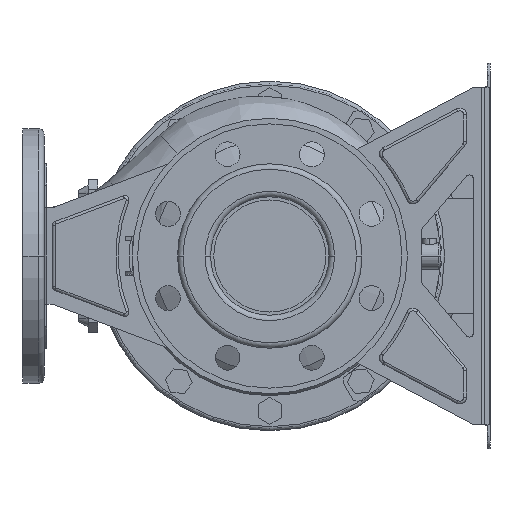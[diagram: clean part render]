
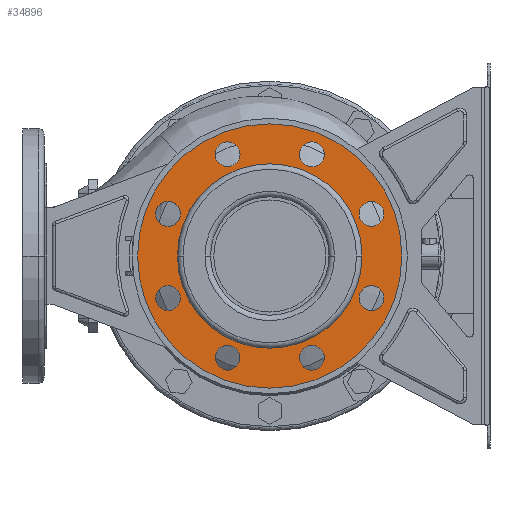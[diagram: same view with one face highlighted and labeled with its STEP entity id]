
A CAD part, front view. The second image highlights one B-rep face of the part: STEP entity #34896.
In plain terms, the highlighted planar face has unit normal (0, -1, 0) as drawn and (-1, 0, 0) by its records, which use the part's own axes.
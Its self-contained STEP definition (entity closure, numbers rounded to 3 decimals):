
#34029=CARTESIAN_POINT('',(14.,0.,0.));
#34030=DIRECTION('',(-1.,0.,0.));
#34031=DIRECTION('',(0.,1.,0.));
#34032=AXIS2_PLACEMENT_3D('',#34029,#34030,#34031);
#34037=CARTESIAN_POINT('',(14.,0.,0.));
#34038=DIRECTION('',(1.,0.,0.));
#34039=DIRECTION('',(0.,1.,0.));
#34040=AXIS2_PLACEMENT_3D('',#34037,#34038,#34039);
#34045=CARTESIAN_POINT('',(14.,-73.91,30.615));
#34046=DIRECTION('',(1.,0.,0.));
#34047=DIRECTION('',(0.,1.,0.));
#34048=AXIS2_PLACEMENT_3D('',#34045,#34046,#34047);
#34053=CARTESIAN_POINT('',(14.,-73.91,30.615));
#34054=DIRECTION('',(1.,0.,0.));
#34055=DIRECTION('',(0.,-1.,0.));
#34056=AXIS2_PLACEMENT_3D('',#34053,#34054,#34055);
#34061=CARTESIAN_POINT('',(14.,-73.91,-30.615));
#34062=DIRECTION('',(1.,0.,0.));
#34063=DIRECTION('',(0.,0.707,0.707));
#34064=AXIS2_PLACEMENT_3D('',#34061,#34062,#34063);
#34069=CARTESIAN_POINT('',(14.,-73.91,-30.615));
#34070=DIRECTION('',(1.,0.,0.));
#34071=DIRECTION('',(0.,-0.707,-0.707));
#34072=AXIS2_PLACEMENT_3D('',#34069,#34070,#34071);
#34077=CARTESIAN_POINT('',(14.,-30.615,-73.91));
#34078=DIRECTION('',(1.,0.,0.));
#34079=DIRECTION('',(0.,0.,1.));
#34080=AXIS2_PLACEMENT_3D('',#34077,#34078,#34079);
#34085=CARTESIAN_POINT('',(14.,-30.615,-73.91));
#34086=DIRECTION('',(1.,0.,0.));
#34087=DIRECTION('',(0.,0.,-1.));
#34088=AXIS2_PLACEMENT_3D('',#34085,#34086,#34087);
#34093=CARTESIAN_POINT('',(14.,30.615,-73.91));
#34094=DIRECTION('',(1.,0.,0.));
#34095=DIRECTION('',(0.,-0.707,0.707));
#34096=AXIS2_PLACEMENT_3D('',#34093,#34094,#34095);
#34101=CARTESIAN_POINT('',(14.,30.615,-73.91));
#34102=DIRECTION('',(1.,0.,0.));
#34103=DIRECTION('',(0.,0.707,-0.707));
#34104=AXIS2_PLACEMENT_3D('',#34101,#34102,#34103);
#34109=CARTESIAN_POINT('',(14.,73.91,-30.615));
#34110=DIRECTION('',(1.,0.,0.));
#34111=DIRECTION('',(0.,-1.,0.));
#34112=AXIS2_PLACEMENT_3D('',#34109,#34110,#34111);
#34117=CARTESIAN_POINT('',(14.,73.91,-30.615));
#34118=DIRECTION('',(1.,0.,0.));
#34119=DIRECTION('',(0.,1.,0.));
#34120=AXIS2_PLACEMENT_3D('',#34117,#34118,#34119);
#34125=CARTESIAN_POINT('',(14.,73.91,30.615));
#34126=DIRECTION('',(1.,0.,0.));
#34127=DIRECTION('',(0.,-0.707,-0.707));
#34128=AXIS2_PLACEMENT_3D('',#34125,#34126,#34127);
#34133=CARTESIAN_POINT('',(14.,73.91,30.615));
#34134=DIRECTION('',(1.,0.,0.));
#34135=DIRECTION('',(0.,0.707,0.707));
#34136=AXIS2_PLACEMENT_3D('',#34133,#34134,#34135);
#34141=CARTESIAN_POINT('',(14.,30.615,73.91));
#34142=DIRECTION('',(1.,0.,0.));
#34143=DIRECTION('',(0.,0.,-1.));
#34144=AXIS2_PLACEMENT_3D('',#34141,#34142,#34143);
#34149=CARTESIAN_POINT('',(14.,30.615,73.91));
#34150=DIRECTION('',(1.,0.,0.));
#34151=DIRECTION('',(0.,0.,1.));
#34152=AXIS2_PLACEMENT_3D('',#34149,#34150,#34151);
#34157=CARTESIAN_POINT('',(14.,-30.615,73.91));
#34158=DIRECTION('',(1.,0.,0.));
#34159=DIRECTION('',(0.,0.707,-0.707));
#34160=AXIS2_PLACEMENT_3D('',#34157,#34158,#34159);
#34165=CARTESIAN_POINT('',(14.,-30.615,73.91));
#34166=DIRECTION('',(1.,0.,0.));
#34167=DIRECTION('',(0.,-0.707,0.707));
#34168=AXIS2_PLACEMENT_3D('',#34165,#34166,#34167);
#34173=CARTESIAN_POINT('',(14.,0.,0.));
#34174=DIRECTION('',(1.,0.,0.));
#34175=DIRECTION('',(0.,1.,0.));
#34176=AXIS2_PLACEMENT_3D('',#34173,#34174,#34175);
#34195=CARTESIAN_POINT('',(14.,0.,0.));
#34196=DIRECTION('',(-1.,0.,0.));
#34197=DIRECTION('',(0.,1.,0.));
#34198=AXIS2_PLACEMENT_3D('',#34195,#34196,#34197);
#34416=CARTESIAN_POINT('',(14.,96.,0.));
#34418=VERTEX_POINT('',#34416);
#34419=CARTESIAN_POINT('',(14.,67.,0.));
#34421=VERTEX_POINT('',#34419);
#34448=CARTESIAN_POINT('',(14.,-96.,0.));
#34450=VERTEX_POINT('',#34448);
#34451=CARTESIAN_POINT('',(14.,-67.,0.));
#34453=VERTEX_POINT('',#34451);
#34463=CARTESIAN_POINT('',(14.,-64.91,30.615));
#34464=CARTESIAN_POINT('',(14.,-82.91,30.615));
#34465=VERTEX_POINT('',#34463);
#34466=VERTEX_POINT('',#34464);
#34471=CARTESIAN_POINT('',(14.,-67.546,-24.251));
#34472=CARTESIAN_POINT('',(14.,-80.274,-36.979));
#34473=VERTEX_POINT('',#34471);
#34474=VERTEX_POINT('',#34472);
#34479=CARTESIAN_POINT('',(14.,-30.615,-64.91));
#34480=CARTESIAN_POINT('',(14.,-30.615,-82.91));
#34481=VERTEX_POINT('',#34479);
#34482=VERTEX_POINT('',#34480);
#34487=CARTESIAN_POINT('',(14.,24.251,-67.546));
#34488=CARTESIAN_POINT('',(14.,36.979,-80.274));
#34489=VERTEX_POINT('',#34487);
#34490=VERTEX_POINT('',#34488);
#34495=CARTESIAN_POINT('',(14.,64.91,-30.615));
#34496=CARTESIAN_POINT('',(14.,82.91,-30.615));
#34497=VERTEX_POINT('',#34495);
#34498=VERTEX_POINT('',#34496);
#34503=CARTESIAN_POINT('',(14.,67.546,24.251));
#34504=CARTESIAN_POINT('',(14.,80.274,36.979));
#34505=VERTEX_POINT('',#34503);
#34506=VERTEX_POINT('',#34504);
#34511=CARTESIAN_POINT('',(14.,30.615,64.91));
#34512=CARTESIAN_POINT('',(14.,30.615,82.91));
#34513=VERTEX_POINT('',#34511);
#34514=VERTEX_POINT('',#34512);
#34519=CARTESIAN_POINT('',(14.,-24.251,67.546));
#34520=CARTESIAN_POINT('',(14.,-36.979,80.274));
#34521=VERTEX_POINT('',#34519);
#34522=VERTEX_POINT('',#34520);
#34833=CARTESIAN_POINT('',(14.,0.,0.));
#34834=DIRECTION('',(1.,0.,0.));
#34835=DIRECTION('',(0.,-1.,0.));
#34836=AXIS2_PLACEMENT_3D('',#34833,#34834,#34835);
#34837=PLANE('',#34836);
#34838=ORIENTED_EDGE('',*,*,#34826,.F.);
#34839=ORIENTED_EDGE('',*,*,#34815,.T.);
#34840=EDGE_LOOP('',(#34838,#34839));
#34841=FACE_OUTER_BOUND('',#34840,.F.);
#34843=ORIENTED_EDGE('',*,*,#34842,.F.);
#34845=ORIENTED_EDGE('',*,*,#34844,.T.);
#34846=EDGE_LOOP('',(#34843,#34845));
#34847=FACE_BOUND('',#34846,.F.);
#34849=ORIENTED_EDGE('',*,*,#34848,.F.);
#34851=ORIENTED_EDGE('',*,*,#34850,.F.);
#34852=EDGE_LOOP('',(#34849,#34851));
#34853=FACE_BOUND('',#34852,.F.);
#34855=ORIENTED_EDGE('',*,*,#34854,.F.);
#34857=ORIENTED_EDGE('',*,*,#34856,.F.);
#34858=EDGE_LOOP('',(#34855,#34857));
#34859=FACE_BOUND('',#34858,.F.);
#34861=ORIENTED_EDGE('',*,*,#34860,.F.);
#34863=ORIENTED_EDGE('',*,*,#34862,.F.);
#34864=EDGE_LOOP('',(#34861,#34863));
#34865=FACE_BOUND('',#34864,.F.);
#34867=ORIENTED_EDGE('',*,*,#34866,.F.);
#34869=ORIENTED_EDGE('',*,*,#34868,.F.);
#34870=EDGE_LOOP('',(#34867,#34869));
#34871=FACE_BOUND('',#34870,.F.);
#34873=ORIENTED_EDGE('',*,*,#34872,.F.);
#34875=ORIENTED_EDGE('',*,*,#34874,.F.);
#34876=EDGE_LOOP('',(#34873,#34875));
#34877=FACE_BOUND('',#34876,.F.);
#34879=ORIENTED_EDGE('',*,*,#34878,.F.);
#34881=ORIENTED_EDGE('',*,*,#34880,.F.);
#34882=EDGE_LOOP('',(#34879,#34881));
#34883=FACE_BOUND('',#34882,.F.);
#34885=ORIENTED_EDGE('',*,*,#34884,.F.);
#34887=ORIENTED_EDGE('',*,*,#34886,.F.);
#34888=EDGE_LOOP('',(#34885,#34887));
#34889=FACE_BOUND('',#34888,.F.);
#34891=ORIENTED_EDGE('',*,*,#34890,.F.);
#34893=ORIENTED_EDGE('',*,*,#34892,.F.);
#34894=EDGE_LOOP('',(#34891,#34893));
#34895=FACE_BOUND('',#34894,.F.);
#34033=CIRCLE('',#34032,96.);
#34041=CIRCLE('',#34040,96.);
#34049=CIRCLE('',#34048,9.);
#34057=CIRCLE('',#34056,9.);
#34065=CIRCLE('',#34064,9.);
#34073=CIRCLE('',#34072,9.);
#34081=CIRCLE('',#34080,9.);
#34089=CIRCLE('',#34088,9.);
#34097=CIRCLE('',#34096,9.);
#34105=CIRCLE('',#34104,9.);
#34113=CIRCLE('',#34112,9.);
#34121=CIRCLE('',#34120,9.);
#34129=CIRCLE('',#34128,9.);
#34137=CIRCLE('',#34136,9.);
#34145=CIRCLE('',#34144,9.);
#34153=CIRCLE('',#34152,9.);
#34161=CIRCLE('',#34160,9.);
#34169=CIRCLE('',#34168,9.);
#34177=CIRCLE('',#34176,67.);
#34199=CIRCLE('',#34198,67.);
#34815=EDGE_CURVE('',#34418,#34450,#34041,.T.);
#34826=EDGE_CURVE('',#34418,#34450,#34033,.T.);
#34842=EDGE_CURVE('',#34421,#34453,#34177,.T.);
#34844=EDGE_CURVE('',#34421,#34453,#34199,.T.);
#34848=EDGE_CURVE('',#34465,#34466,#34049,.T.);
#34850=EDGE_CURVE('',#34466,#34465,#34057,.T.);
#34854=EDGE_CURVE('',#34473,#34474,#34065,.T.);
#34856=EDGE_CURVE('',#34474,#34473,#34073,.T.);
#34860=EDGE_CURVE('',#34481,#34482,#34081,.T.);
#34862=EDGE_CURVE('',#34482,#34481,#34089,.T.);
#34866=EDGE_CURVE('',#34489,#34490,#34097,.T.);
#34868=EDGE_CURVE('',#34490,#34489,#34105,.T.);
#34872=EDGE_CURVE('',#34497,#34498,#34113,.T.);
#34874=EDGE_CURVE('',#34498,#34497,#34121,.T.);
#34878=EDGE_CURVE('',#34505,#34506,#34129,.T.);
#34880=EDGE_CURVE('',#34506,#34505,#34137,.T.);
#34884=EDGE_CURVE('',#34513,#34514,#34145,.T.);
#34886=EDGE_CURVE('',#34514,#34513,#34153,.T.);
#34890=EDGE_CURVE('',#34521,#34522,#34161,.T.);
#34892=EDGE_CURVE('',#34522,#34521,#34169,.T.);
#34896=ADVANCED_FACE('',(#34841,#34847,#34853,#34859,#34865,#34871,#34877,
#34883,#34889,#34895),#34837,.F.);
